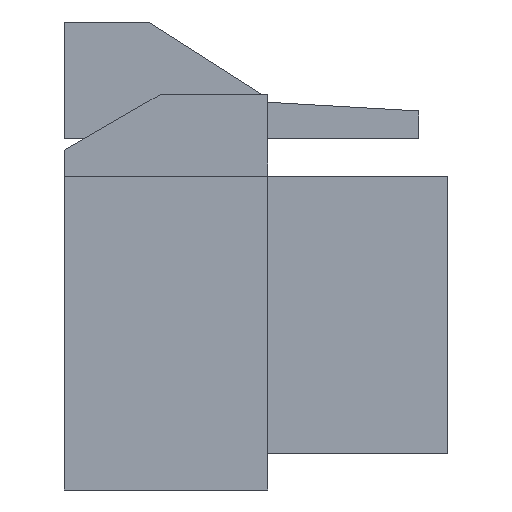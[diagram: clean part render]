
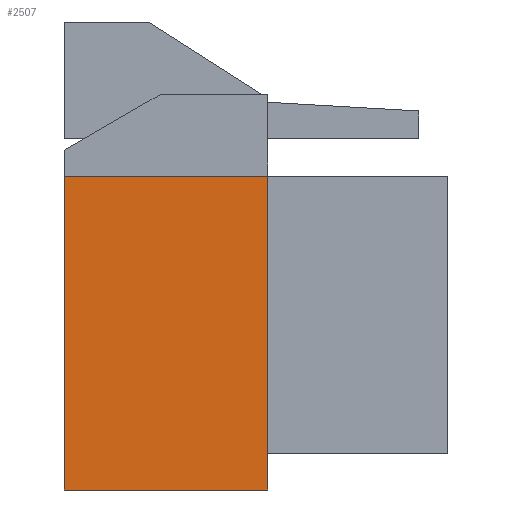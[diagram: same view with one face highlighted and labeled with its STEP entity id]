
A CAD part, left-side view. The second image highlights one B-rep face of the part: STEP entity #2507.
In plain terms, the highlighted planar face has unit normal (-1, 0, 0).
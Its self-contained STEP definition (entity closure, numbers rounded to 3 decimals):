
#38 = LINE ( 'NONE', #290, #51 ) ;
#44 = LINE ( 'NONE', #256, #47 ) ;
#47 = VECTOR ( 'NONE', #253, 1000. ) ;
#51 = VECTOR ( 'NONE', #242, 1000. ) ;
#242 = DIRECTION ( 'NONE',  ( 0., 0., 1. ) ) ;
#253 = DIRECTION ( 'NONE',  ( 0., 1., 0. ) ) ;
#256 = CARTESIAN_POINT ( 'NONE',  ( -9.125, 6.6, -2.8 ) ) ;
#290 = CARTESIAN_POINT ( 'NONE',  ( -9.125, 6.6, -6.376 ) ) ;
#692 = EDGE_LOOP ( 'NONE', ( #1682, #1546, #1526, #1679 ) ) ;
#810 = DIRECTION ( 'NONE',  ( 0., 0., -1. ) ) ;
#821 = DIRECTION ( 'NONE',  ( 0., -1., 0. ) ) ;
#822 = CARTESIAN_POINT ( 'NONE',  ( -9.125, 6.6, 2.6 ) ) ;
#832 = CARTESIAN_POINT ( 'NONE',  ( -9.125, 3.1, -2.6 ) ) ;
#1058 = AXIS2_PLACEMENT_3D ( 'NONE', #3980, #3962, #3961 ) ;
#1204 = LINE ( 'NONE', #822, #1207 ) ;
#1207 = VECTOR ( 'NONE', #821, 1000. ) ;
#1378 = VERTEX_POINT ( 'NONE', #3637 ) ;
#1379 = VERTEX_POINT ( 'NONE', #3645 ) ;
#1381 = VERTEX_POINT ( 'NONE', #3784 ) ;
#1526 = ORIENTED_EDGE ( 'NONE', *, *, #2935, .F. ) ;
#1546 = ORIENTED_EDGE ( 'NONE', *, *, #4167, .F. ) ;
#1679 = ORIENTED_EDGE ( 'NONE', *, *, #2982, .F. ) ;
#1682 = ORIENTED_EDGE ( 'NONE', *, *, #4169, .F. ) ;
#1936 = VERTEX_POINT ( 'NONE', #3670 ) ;
#2144 = FACE_OUTER_BOUND ( 'NONE', #692, .T. ) ;
#2507 = ADVANCED_FACE ( 'NONE', ( #2144 ), #3981, .F. ) ;
#2766 = LINE ( 'NONE', #832, #2774 ) ;
#2774 = VECTOR ( 'NONE', #810, 1000. ) ;
#2935 = EDGE_CURVE ( 'NONE', #1379, #1381, #2766, .T. ) ;
#2982 = EDGE_CURVE ( 'NONE', #1378, #1379, #1204, .T. ) ;
#3637 = CARTESIAN_POINT ( 'NONE',  ( -9.125, 6.6, 2.6 ) ) ;
#3645 = CARTESIAN_POINT ( 'NONE',  ( -9.125, 3.1, 2.6 ) ) ;
#3670 = CARTESIAN_POINT ( 'NONE',  ( -9.125, 6.6, -2.8 ) ) ;
#3784 = CARTESIAN_POINT ( 'NONE',  ( -9.125, 3.1, -2.8 ) ) ;
#3961 = DIRECTION ( 'NONE',  ( 0., 0., -1. ) ) ;
#3962 = DIRECTION ( 'NONE',  ( 1., 0., 0. ) ) ;
#3980 = CARTESIAN_POINT ( 'NONE',  ( -9.125, 6.6, -2.6 ) ) ;
#3981 = PLANE ( 'NONE',  #1058 ) ;
#4167 = EDGE_CURVE ( 'NONE', #1381, #1936, #44, .T. ) ;
#4169 = EDGE_CURVE ( 'NONE', #1936, #1378, #38, .T. ) ;
